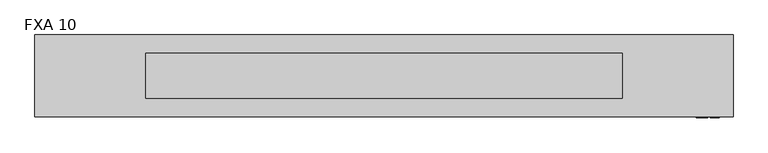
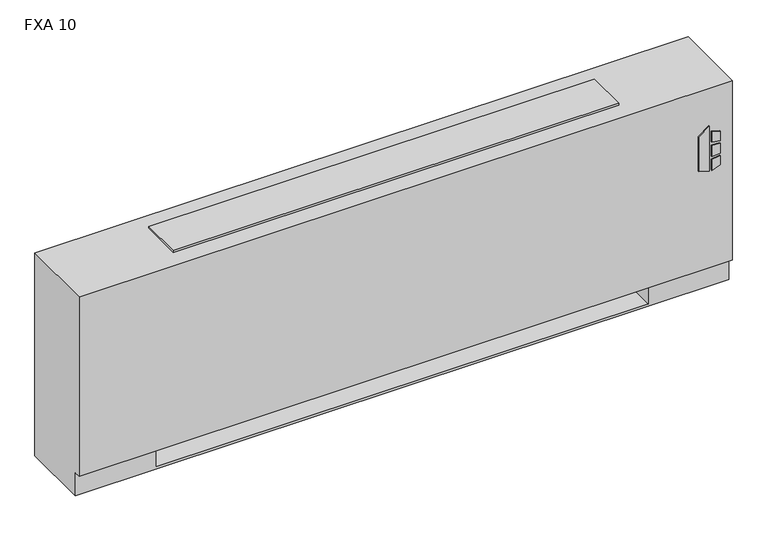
"""IFC4 building model written with IfcOpenShell, lengths in millimetres: proxy geometry, Vertical_Fan_Coil_Unit_-_FXA_-_IEC_-_4-Pipe_TS-FR_RH_2022 : FXA 10."""

from ifc_helpers import new_model, si_unit, point, frame, frame_2d, origin, place, context, project, spatial, polyline, circle_curve, trimmed, segment, composite_curve, outline, extrude, source, transform, mapped, element, save
from ifc_brep_helpers import plane_surface, revolved_surface, advanced_brep


def fxa_10_67cc4ca5(model_context):
    return source(origin(), model_context, "Body", "SolidModel", [
        extrude(outline(polyline([(391.6086829, 1027.1868862), (381.6606126, 1059.3602728), (523.831537, 1059.3602728), (500.8095309, 1027.1868862), (391.6086829, 1027.1868862)])), frame((0.0, 12.7, 0.0), z_axis=(0.0, 1.0, 0.0), x_axis=(0.0, 0.0, 1.0)), (0.0, 0.0, 1.0), 3.175),
        extrude(outline(polyline([(470.6079683, 1066.1186058), (467.4055757, 1092.2), (496.6344168, 1092.2), (504.6988318, 1066.1186058), (470.6079683, 1066.1186058)])), frame((0.0, 12.7, 0.0), z_axis=(0.0, 1.0, 0.0), x_axis=(0.0, 0.0, 1.0)), (0.0, 0.0, 1.0), 3.175),
        extrude(outline(polyline([(418.7444414, 1092.2), (415.0789404, 1066.1186058), (381.6606126, 1066.1186058), (390.2948498, 1092.2), (418.7444414, 1092.2)])), frame((0.0, 12.7, 0.0), z_axis=(0.0, 1.0, 0.0), x_axis=(0.0, 0.0, 1.0)), (0.0, 0.0, 1.0), 3.175),
        extrude(outline(polyline([(458.0596028, 1092.2), (460.3414292, 1066.1186058), (424.4038806, 1066.1186058), (427.1451456, 1092.2), (458.0596028, 1092.2)])), frame((0.0, 12.7, 0.0), z_axis=(0.0, 1.0, 0.0), x_axis=(0.0, 0.0, 1.0)), (0.0, 0.0, 1.0), 3.175),
        extrude(outline(polyline([(-704.85, 81.534), (-704.85, 223.266), (-584.2, 223.266), (-584.2, 81.534), (-704.85, 81.534)])), frame((0.0, 0.0, 327.025), z_axis=(0.0, 0.0, 1.0), x_axis=(1.0, 0.0, 0.0)), (0.0, 0.0, 1.0), 260.35),
        extrude(outline(composite_curve([segment(trimmed(circle_curve(frame_2d((952.5, 130.175)), 9.525), [point((942.975, 130.175))], [point((962.025, 130.175))], False, "CARTESIAN"), True, "CONTINUOUS"), segment(trimmed(circle_curve(frame_2d((952.5, 130.175)), 9.525), [point((962.025, 130.175))], [point((942.975, 130.175))], False, "CARTESIAN"), True, "CONTINUOUS")], self_intersect=False)), frame((0.0, 0.0, 101.6), z_axis=(0.0, 0.0, 1.0), x_axis=(1.0, 0.0, 0.0)), (0.0, 0.0, 1.0), 25.4),
        extrude(outline(polyline([(1047.75, 196.85), (1047.75, 63.5), (889.0, 63.5), (889.0, 196.85), (1047.75, 196.85)])), frame((0.0, 0.0, 127.0), z_axis=(0.0, 0.0, 1.0), x_axis=(1.0, 0.0, 0.0)), (0.0, 0.0, 1.0), 50.8),
        extrude(outline(composite_curve([segment(trimmed(circle_curve(frame_2d((109.0168, 460.0194)), 7.9375), [point((109.0168, 467.9569))], [point((109.0168, 452.0819))], False, "CARTESIAN"), True, "CONTINUOUS"), segment(trimmed(circle_curve(frame_2d((109.0168, 460.0194)), 7.9375), [point((109.0168, 452.0819))], [point((109.0168, 467.9569))], False, "CARTESIAN"), True, "CONTINUOUS")], self_intersect=False)), frame((889.0, 0.0, 0.0), z_axis=(1.0, 0.0, 0.0), x_axis=(0.0, 1.0, 0.0)), (0.0, 0.0, 1.0), 50.8),
        extrude(outline(composite_curve([segment(trimmed(circle_curve(frame_2d((172.085, 460.0194)), 7.9375), [point((172.085, 467.9569))], [point((172.085, 452.0819))], False, "CARTESIAN"), True, "CONTINUOUS"), segment(trimmed(circle_curve(frame_2d((172.085, 460.0194)), 7.9375), [point((172.085, 452.0819))], [point((172.085, 467.9569))], False, "CARTESIAN"), True, "CONTINUOUS")], self_intersect=False)), frame((889.0, 0.0, 0.0), z_axis=(1.0, 0.0, 0.0), x_axis=(0.0, 1.0, 0.0)), (0.0, 0.0, 1.0), 50.8),
        extrude(outline(composite_curve([segment(trimmed(circle_curve(frame_2d((130.175, 554.99)), 7.9502), [point((130.175, 562.9402))], [point((130.175, 547.0398))], False, "CARTESIAN"), True, "CONTINUOUS"), segment(trimmed(circle_curve(frame_2d((130.175, 554.99)), 7.9502), [point((130.175, 547.0398))], [point((130.175, 562.9402))], False, "CARTESIAN"), True, "CONTINUOUS")], self_intersect=False)), frame((889.0, 0.0, 0.0), z_axis=(1.0, 0.0, 0.0), x_axis=(0.0, 1.0, 0.0)), (0.0, 0.0, 1.0), 50.8),
        extrude(outline(composite_curve([segment(trimmed(circle_curve(frame_2d((53.975, 416.56)), 7.9502), [point((53.975, 424.5102))], [point((53.975, 408.6098))], False, "CARTESIAN"), True, "CONTINUOUS"), segment(trimmed(circle_curve(frame_2d((53.975, 416.56)), 7.9502), [point((53.975, 408.6098))], [point((53.975, 424.5102))], False, "CARTESIAN"), True, "CONTINUOUS")], self_intersect=False)), frame((889.0, 0.0, 0.0), z_axis=(1.0, 0.0, 0.0), x_axis=(0.0, 1.0, 0.0)), (0.0, 0.0, 1.0), 50.8),
        advanced_brep(
        [(1130.3, 244.475, 641.35), (-825.5, 244.475, 641.35), (-825.5, 15.875, 641.35), (1130.3, 15.875, 641.35), (-825.5, 244.475, 0.0), (1130.3, 244.475, 0.0), (1130.3, 34.925, 0.0), (-825.5, 34.925, 0.0), (889.0, 244.475, 73.025), (1117.6, 244.475, 73.025), (1117.6, 244.475, 628.65), (889.0, 244.475, 628.65), (889.0, 244.475, 414.8650565), (917.575, 244.475, 414.8650565), (917.575, 244.475, 385.2349435), (889.0, 244.475, 385.2349435), (889.0, 244.475, 287.3375), (917.575, 244.475, 287.3375), (917.575, 244.475, 258.7625), (889.0, 244.475, 258.7625), (889.0, 244.475, 141.2875), (917.575, 244.475, 141.2875), (917.575, 244.475, 112.7125), (889.0, 244.475, 112.7125), (-584.2, 244.475, 628.65), (-812.8, 244.475, 628.65), (-812.8, 244.475, 73.025), (-584.2, 244.475, 73.025), (-584.2, 244.475, 112.7125), (-612.775, 244.475, 112.7125), (-612.775, 244.475, 141.2875), (-584.2, 244.475, 141.2875), (-584.2, 244.475, 258.7625), (-612.775, 244.475, 258.7625), (-612.775, 244.475, 287.3375), (-584.2, 244.475, 287.3375), (-584.2, 244.475, 385.2349435), (-612.775, 244.475, 385.2349435), (-612.775, 244.475, 414.8650565), (-584.2, 244.475, 414.8650565), (907.2626, 244.475, 127.0), (896.1374, 244.475, 127.0), (907.2626, 244.475, 400.05), (896.1374, 244.475, 400.05), (907.2626, 244.475, 273.05), (896.1374, 244.475, 273.05), (-591.3374, 244.475, 127.0), (-602.4626, 244.475, 127.0), (-591.3374, 244.475, 273.05), (-602.4626, 244.475, 273.05), (-591.3374, 244.475, 400.05), (-602.4626, 244.475, 400.05), (-825.5, 34.925, 73.025), (-825.5, 15.875, 73.025), (1130.3, 15.875, 73.025), (1130.3, 34.925, 73.025), (-584.2, 34.925, 73.025), (-584.2, 219.075, 73.025), (889.0, 219.075, 73.025), (889.0, 34.925, 73.025), (889.0, 34.925, 6.35), (-584.2, 34.925, 6.35), (889.0, 41.275, 628.65), (1117.6, 41.275, 628.65), (1117.6, 41.275, 73.025), (889.0, 41.275, 73.025), (-584.2, 41.275, 628.65), (-584.2, 41.275, 73.025), (-812.8, 41.275, 73.025), (-812.8, 41.275, 628.65), (889.0, 219.075, 73.025), (889.0, 238.125, 112.7125), (889.0, 238.125, 141.2875), (889.0, 238.125, 258.7625), (889.0, 238.125, 287.3375), (889.0, 238.125, 385.2349435), (889.0, 238.125, 414.8650565), (-584.2, 219.075, 73.025), (-584.2, 238.125, 414.8650565), (-584.2, 238.125, 385.2349435), (-584.2, 238.125, 287.3375), (-584.2, 238.125, 258.7625), (-584.2, 238.125, 141.2875), (-584.2, 238.125, 112.7125), (-584.2, 219.075, 6.35), (889.0, 219.075, 6.35), (917.575, 238.125, 112.7125), (917.575, 238.125, 141.2875), (896.1374, 238.125, 127.0), (907.2626, 238.125, 127.0), (917.575, 238.125, 258.7625), (917.575, 238.125, 287.3375), (896.1374, 238.125, 273.05), (907.2626, 238.125, 273.05), (917.575, 238.125, 385.2349435), (917.575, 238.125, 414.8650565), (896.1374, 238.125, 400.05), (907.2626, 238.125, 400.05), (-612.775, 238.125, 141.2875), (-612.775, 238.125, 112.7125), (-602.4626, 238.125, 127.0), (-591.3374, 238.125, 127.0), (-612.775, 238.125, 287.3375), (-612.775, 238.125, 258.7625), (-602.4626, 238.125, 273.05), (-591.3374, 238.125, 273.05), (-612.775, 238.125, 414.8650565), (-612.775, 238.125, 385.2349435), (-602.4626, 238.125, 400.05), (-591.3374, 238.125, 400.05)],
        [
            (0, 1),
            (1, 2),
            (2, 3),
            (3, 0),
            (4, 5),
            (5, 6),
            (6, 7),
            (7, 4),
            (0, 5),
            (4, 1),
            (8, 9),
            (9, 10),
            (10, 11),
            (11, 12),
            (12, 13),
            (13, 14),
            (14, 15),
            (15, 16),
            (16, 17),
            (17, 18),
            (18, 19),
            (19, 20),
            (20, 21),
            (21, 22),
            (22, 23),
            (23, 8),
            (24, 25),
            (25, 26),
            (26, 27),
            (27, 28),
            (28, 29),
            (29, 30),
            (30, 31),
            (31, 32),
            (32, 33),
            (33, 34),
            (34, 35),
            (35, 36),
            (36, 37),
            (37, 38),
            (38, 39),
            (39, 24),
            (40, 41, circle_curve(frame((901.7, 244.475, 127.0), z_axis=(0.0, -1.0, 0.0), x_axis=(-1.0, 0.0, 0.0)), 5.5626)),
            (41, 40, circle_curve(frame((901.7, 244.475, 127.0), z_axis=(0.0, -1.0, 0.0), x_axis=(-1.0, 0.0, 0.0)), 5.5626)),
            (42, 43, circle_curve(frame((901.7, 244.475, 400.05), z_axis=(0.0, -1.0, 0.0), x_axis=(-1.0, 0.0, 0.0)), 5.5626)),
            (43, 42, circle_curve(frame((901.7, 244.475, 400.05), z_axis=(0.0, -1.0, 0.0), x_axis=(-1.0, 0.0, 0.0)), 5.5626)),
            (44, 45, circle_curve(frame((901.7, 244.475, 273.05), z_axis=(0.0, -1.0, 0.0), x_axis=(-1.0, 0.0, 0.0)), 5.5626)),
            (45, 44, circle_curve(frame((901.7, 244.475, 273.05), z_axis=(0.0, -1.0, 0.0), x_axis=(-1.0, 0.0, 0.0)), 5.5626)),
            (46, 47, circle_curve(frame((-596.9, 244.475, 127.0), z_axis=(0.0, -1.0, 0.0), x_axis=(-1.0, 0.0, 0.0)), 5.5626)),
            (47, 46, circle_curve(frame((-596.9, 244.475, 127.0), z_axis=(0.0, -1.0, 0.0), x_axis=(-1.0, 0.0, 0.0)), 5.5626)),
            (48, 49, circle_curve(frame((-596.9, 244.475, 273.05), z_axis=(0.0, -1.0, 0.0), x_axis=(-1.0, 0.0, 0.0)), 5.5626)),
            (49, 48, circle_curve(frame((-596.9, 244.475, 273.05), z_axis=(0.0, -1.0, 0.0), x_axis=(-1.0, 0.0, 0.0)), 5.5626)),
            (50, 51, circle_curve(frame((-596.9, 244.475, 400.05), z_axis=(0.0, -1.0, 0.0), x_axis=(-1.0, 0.0, 0.0)), 5.5626)),
            (51, 50, circle_curve(frame((-596.9, 244.475, 400.05), z_axis=(0.0, -1.0, 0.0), x_axis=(-1.0, 0.0, 0.0)), 5.5626)),
            (7, 52),
            (52, 53),
            (53, 2),
            (53, 54),
            (54, 3),
            (54, 55),
            (55, 6),
            (52, 56),
            (56, 57),
            (57, 58),
            (58, 59),
            (59, 55),
            (59, 60),
            (60, 61),
            (61, 56),
            (62, 63),
            (63, 64),
            (64, 65),
            (65, 62),
            (66, 67),
            (67, 68),
            (68, 69),
            (69, 66),
            (65, 70),
            (70, 8),
            (23, 71),
            (71, 72),
            (72, 20),
            (19, 73),
            (73, 74),
            (74, 16),
            (15, 75),
            (75, 76),
            (76, 12),
            (11, 62),
            (64, 9),
            (63, 10),
            (69, 25),
            (24, 66),
            (68, 26),
            (67, 77),
            (77, 27),
            (39, 78),
            (78, 79),
            (79, 36),
            (35, 80),
            (80, 81),
            (81, 32),
            (31, 82),
            (82, 83),
            (83, 28),
            (57, 84),
            (84, 85),
            (85, 58),
            (85, 60),
            (84, 61),
            (71, 86),
            (86, 87),
            (87, 72),
            (88, 89, circle_curve(frame((901.7, 238.125, 127.0), z_axis=(0.0, 1.0, 0.0), x_axis=(-1.0, 0.0, 0.0)), 5.5626)),
            (89, 88, circle_curve(frame((901.7, 238.125, 127.0), z_axis=(0.0, 1.0, 0.0), x_axis=(-1.0, 0.0, 0.0)), 5.5626)),
            (73, 90),
            (90, 91),
            (91, 74),
            (92, 93, circle_curve(frame((901.7, 238.125, 273.05), z_axis=(0.0, 1.0, 0.0), x_axis=(-1.0, 0.0, 0.0)), 5.5626)),
            (93, 92, circle_curve(frame((901.7, 238.125, 273.05), z_axis=(0.0, 1.0, 0.0), x_axis=(-1.0, 0.0, 0.0)), 5.5626)),
            (75, 94),
            (94, 95),
            (95, 76),
            (96, 97, circle_curve(frame((901.7, 238.125, 400.05), z_axis=(0.0, 1.0, 0.0), x_axis=(-1.0, 0.0, 0.0)), 5.5626)),
            (97, 96, circle_curve(frame((901.7, 238.125, 400.05), z_axis=(0.0, 1.0, 0.0), x_axis=(-1.0, 0.0, 0.0)), 5.5626)),
            (98, 99),
            (99, 83),
            (82, 98),
            (100, 101, circle_curve(frame((-596.9, 238.125, 127.0), z_axis=(0.0, 1.0, 0.0), x_axis=(-1.0, 0.0, 0.0)), 5.5626)),
            (101, 100, circle_curve(frame((-596.9, 238.125, 127.0), z_axis=(0.0, 1.0, 0.0), x_axis=(-1.0, 0.0, 0.0)), 5.5626)),
            (102, 103),
            (103, 81),
            (80, 102),
            (104, 105, circle_curve(frame((-596.9, 238.125, 273.05), z_axis=(0.0, 1.0, 0.0), x_axis=(-1.0, 0.0, 0.0)), 5.5626)),
            (105, 104, circle_curve(frame((-596.9, 238.125, 273.05), z_axis=(0.0, 1.0, 0.0), x_axis=(-1.0, 0.0, 0.0)), 5.5626)),
            (106, 107),
            (107, 79),
            (78, 106),
            (108, 109, circle_curve(frame((-596.9, 238.125, 400.05), z_axis=(0.0, 1.0, 0.0), x_axis=(-1.0, 0.0, 0.0)), 5.5626)),
            (109, 108, circle_curve(frame((-596.9, 238.125, 400.05), z_axis=(0.0, 1.0, 0.0), x_axis=(-1.0, 0.0, 0.0)), 5.5626)),
            (87, 21),
            (86, 22),
            (91, 17),
            (90, 18),
            (95, 13),
            (94, 14),
            (30, 98),
            (99, 29),
            (34, 102),
            (103, 33),
            (38, 106),
            (107, 37),
            (88, 41),
            (40, 89),
            (96, 43),
            (42, 97),
            (92, 45),
            (44, 93),
            (100, 47),
            (46, 101),
            (104, 49),
            (48, 105),
            (108, 51),
            (50, 109),
        ],
        [
            plane_surface(frame((-825.5, 244.475, 641.35), z_axis=(0.0, 0.0, 1.0), x_axis=(-1.0, 0.0, 0.0))),
            plane_surface(frame((-825.5, 244.475, 0.0), z_axis=(0.0, 0.0, -1.0), x_axis=(1.0, 0.0, 0.0))),
            plane_surface(frame((1130.3, 244.475, 641.35), z_axis=(0.0, 1.0, 0.0), x_axis=(0.0, 0.0, -1.0))),
            plane_surface(frame((-825.5, 244.475, 641.35), z_axis=(-1.0, 0.0, 0.0), x_axis=(0.0, 0.0, -1.0))),
            plane_surface(frame((-825.5, 15.875, 641.35), z_axis=(0.0, -1.0, 0.0), x_axis=(0.0, 0.0, -1.0))),
            plane_surface(frame((1130.3, 15.875, 641.35), z_axis=(1.0, 0.0, 0.0), x_axis=(0.0, 0.0, -1.0))),
            plane_surface(frame((-825.5, 15.875, 73.025), z_axis=(0.0, 0.0, -1.0), x_axis=(1.0, 0.0, 0.0))),
            plane_surface(frame((-825.5, 34.925, 73.025), z_axis=(0.0, -1.0, 0.0), x_axis=(1.0, 0.0, 0.0))),
            plane_surface(frame((889.0, 41.275, 628.65), z_axis=(0.0, 1.0, 0.0), x_axis=(0.0, 0.0, -1.0))),
            plane_surface(frame((889.0, 41.275, 628.65), z_axis=(1.0, 0.0, 0.0), x_axis=(0.0, 1.0, 0.0))),
            plane_surface(frame((889.0, 41.275, 73.025), z_axis=(0.0, 0.0, 1.0), x_axis=(0.0, 1.0, 0.0))),
            plane_surface(frame((1117.6, 41.275, 73.025), z_axis=(-1.0, 0.0, 0.0), x_axis=(0.0, 1.0, 0.0))),
            plane_surface(frame((1117.6, 41.275, 628.65), z_axis=(0.0, 0.0, -1.0), x_axis=(0.0, 1.0, 0.0))),
            plane_surface(frame((-584.2, 41.275, 628.65), z_axis=(0.0, 0.0, -1.0), x_axis=(0.0, 1.0, 0.0))),
            plane_surface(frame((-812.8, 41.275, 628.65), z_axis=(1.0, 0.0, 0.0), x_axis=(0.0, 1.0, 0.0))),
            plane_surface(frame((-812.8, 41.275, 73.025), z_axis=(0.0, 0.0, 1.0), x_axis=(0.0, 1.0, 0.0))),
            plane_surface(frame((-584.2, 41.275, 73.025), z_axis=(-1.0, 0.0, 0.0), x_axis=(0.0, 1.0, 0.0))),
            plane_surface(frame((889.0, 219.075, 73.025), z_axis=(0.0, -1.0, 0.0), x_axis=(0.0, 0.0, -1.0))),
            plane_surface(frame((889.0, 219.075, 73.025), z_axis=(-1.0, 0.0, 0.0), x_axis=(0.0, -1.0, 0.0))),
            plane_surface(frame((889.0, 219.075, 6.35), z_axis=(0.0, 0.0, 1.0), x_axis=(0.0, -1.0, 0.0))),
            plane_surface(frame((-584.2, 219.075, 6.35), z_axis=(1.0, 0.0, 0.0), x_axis=(0.0, -1.0, 0.0))),
            plane_surface(frame((917.575, 238.125, 141.2875), z_axis=(0.0, -1.0, 0.0), x_axis=(-1.0, 0.0, 0.0))),
            plane_surface(frame((889.0, 244.475, 141.2875), z_axis=(0.0, 0.0, 1.0), x_axis=(0.0, -1.0, 0.0))),
            plane_surface(frame((917.575, 244.475, 141.2875), z_axis=(1.0, 0.0, 0.0), x_axis=(0.0, -1.0, 0.0))),
            plane_surface(frame((917.575, 244.475, 112.7125), z_axis=(0.0, 0.0, -1.0), x_axis=(0.0, -1.0, 0.0))),
            plane_surface(frame((889.0, 244.475, 287.3375), z_axis=(0.0, 0.0, 1.0), x_axis=(0.0, -1.0, 0.0))),
            plane_surface(frame((917.575, 244.475, 287.3375), z_axis=(1.0, 0.0, 0.0), x_axis=(0.0, -1.0, 0.0))),
            plane_surface(frame((917.575, 244.475, 258.7625), z_axis=(0.0, 0.0, -1.0), x_axis=(0.0, -1.0, 0.0))),
            plane_surface(frame((889.0, 244.475, 414.8650565), z_axis=(0.0, 0.0, 1.0), x_axis=(0.0, -1.0, 0.0))),
            plane_surface(frame((917.575, 244.475, 414.8650565), z_axis=(1.0, 0.0, 0.0), x_axis=(0.0, -1.0, 0.0))),
            plane_surface(frame((917.575, 244.475, 385.2349435), z_axis=(0.0, 0.0, -1.0), x_axis=(0.0, -1.0, 0.0))),
            plane_surface(frame((-612.775, 244.475, 141.2875), z_axis=(0.0, 0.0, 1.0), x_axis=(0.0, -1.0, 0.0))),
            plane_surface(frame((-584.2, 244.475, 112.7125), z_axis=(0.0, 0.0, -1.0), x_axis=(0.0, -1.0, 0.0))),
            plane_surface(frame((-612.775, 244.475, 112.7125), z_axis=(-1.0, 0.0, 0.0), x_axis=(0.0, -1.0, 0.0))),
            plane_surface(frame((-612.775, 244.475, 287.3375), z_axis=(0.0, 0.0, 1.0), x_axis=(0.0, -1.0, 0.0))),
            plane_surface(frame((-584.2, 244.475, 258.7625), z_axis=(0.0, 0.0, -1.0), x_axis=(0.0, -1.0, 0.0))),
            plane_surface(frame((-612.775, 244.475, 258.7625), z_axis=(-1.0, 0.0, 0.0), x_axis=(0.0, -1.0, 0.0))),
            plane_surface(frame((-612.775, 244.475, 414.8650565), z_axis=(0.0, 0.0, 1.0), x_axis=(0.0, -1.0, 0.0))),
            plane_surface(frame((-584.2, 244.475, 385.2349435), z_axis=(0.0, 0.0, -1.0), x_axis=(0.0, -1.0, 0.0))),
            plane_surface(frame((-612.775, 244.475, 385.2349435), z_axis=(-1.0, 0.0, 0.0), x_axis=(0.0, -1.0, 0.0))),
            revolved_surface(polyline([(896.1374000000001, 238.125, 127.0), (896.1374000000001, 244.475, 127.0)]), (901.7, 244.475, 127.0), (0.0, -1.0, 0.0)),
            revolved_surface(polyline([(896.1374000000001, 238.125, 400.05), (896.1374000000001, 244.475, 400.05)]), (901.7, 244.475, 400.05), (0.0, -1.0, 0.0)),
            revolved_surface(polyline([(896.1374000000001, 238.125, 273.05), (896.1374000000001, 244.475, 273.05)]), (901.7, 244.475, 273.05), (0.0, -1.0, 0.0)),
            revolved_surface(polyline([(-602.4626, 238.125, 127.0), (-602.4626, 244.475, 127.0)]), (-596.9, 244.475, 127.0), (0.0, -1.0, 0.0)),
            revolved_surface(polyline([(-602.4626, 238.125, 273.05), (-602.4626, 244.475, 273.05)]), (-596.9, 244.475, 273.05), (0.0, -1.0, 0.0)),
            revolved_surface(polyline([(-602.4626, 238.125, 400.05), (-602.4626, 244.475, 400.05)]), (-596.9, 244.475, 400.05), (0.0, -1.0, 0.0)),
        ],
        [
            (0, [[1, 2, 3, 4]]),
            (1, [[5, 6, 7, 8]]),
            (2, [[-1, 9, -5, 10], [11, 12, 13, 14, 15, 16, 17, 18, 19, 20, 21, 22, 23, 24, 25, 26], [27, 28, 29, 30, 31, 32, 33, 34, 35, 36, 37, 38, 39, 40, 41, 42], [43, 44], [45, 46], [47, 48], [49, 50], [51, 52], [53, 54]]),
            (3, [[-2, -10, -8, 55, 56, 57]]),
            (4, [[-3, -57, 58, 59]]),
            (5, [[-4, -59, 60, 61, -6, -9]]),
            (6, [[-56, 62, 63, 64, 65, 66, -60, -58]]),
            (7, [[-7, -61, -66, 67, 68, 69, -62, -55]]),
            (8, [[70, 71, 72, 73]]),
            (8, [[74, 75, 76, 77]]),
            (9, [[-73, 78, 79, -26, 80, 81, 82, -22, 83, 84, 85, -18, 86, 87, 88, -14, 89]]),
            (10, [[-72, 90, -11, -79, -78]]),
            (11, [[-71, 91, -12, -90]]),
            (12, [[-70, -89, -13, -91]]),
            (13, [[-77, 92, -27, 93]]),
            (14, [[-76, 94, -28, -92]]),
            (15, [[-75, 95, 96, -29, -94]]),
            (16, [[-74, -93, -42, 97, 98, 99, -38, 100, 101, 102, -34, 103, 104, 105, -30, -96, -95]]),
            (17, [[-64, 106, 107, 108]]),
            (18, [[-108, 109, -67, -65]]),
            (19, [[-107, 110, -68, -109]]),
            (20, [[-106, -63, -69, -110]]),
            (21, [[111, 112, 113, -81], [114, 115]]),
            (21, [[116, 117, 118, -84], [119, 120]]),
            (21, [[121, 122, 123, -87], [124, 125]]),
            (21, [[126, 127, -104, 128], [129, 130]]),
            (21, [[131, 132, -101, 133], [134, 135]]),
            (21, [[136, 137, -98, 138], [139, 140]]),
            (22, [[-113, 141, -23, -82]]),
            (23, [[-112, 142, -24, -141]]),
            (24, [[-111, -80, -25, -142]]),
            (25, [[-118, 143, -19, -85]]),
            (26, [[-117, 144, -20, -143]]),
            (27, [[-116, -83, -21, -144]]),
            (28, [[-123, 145, -15, -88]]),
            (29, [[-122, 146, -16, -145]]),
            (30, [[-121, -86, -17, -146]]),
            (31, [[-128, -103, -33, 147]]),
            (32, [[-127, 148, -31, -105]]),
            (33, [[-126, -147, -32, -148]]),
            (34, [[-133, -100, -37, 149]]),
            (35, [[-132, 150, -35, -102]]),
            (36, [[-131, -149, -36, -150]]),
            (37, [[-138, -97, -41, 151]]),
            (38, [[-137, 152, -39, -99]]),
            (39, [[-136, -151, -40, -152]]),
            (40, [[153, -43, 154, -114]]),
            (40, [[-153, -115, -154, -44]]),
            (41, [[155, -45, 156, -124]]),
            (41, [[-155, -125, -156, -46]]),
            (42, [[157, -47, 158, -119]]),
            (42, [[-157, -120, -158, -48]]),
            (43, [[159, -49, 160, -129]]),
            (43, [[-159, -130, -160, -50]]),
            (44, [[161, -51, 162, -134]]),
            (44, [[-161, -135, -162, -52]]),
            (45, [[163, -53, 164, -139]]),
            (45, [[-163, -140, -164, -54]]),
        ],
    ),
        extrude(outline(polyline([(819.15, 193.675), (819.15, 66.675), (-514.35, 66.675), (-514.35, 193.675), (819.15, 193.675)])), frame((0.0, 0.0, 641.35), z_axis=(0.0, 0.0, 1.0), x_axis=(1.0, 0.0, 0.0)), (0.0, 0.0, 1.0), 6.35),
    ])


if __name__ == "__main__":
    model = new_model("IFC4")
    model_context = context("Model", 3, world=origin())
    ifc_project = project(units=[si_unit("LENGTHUNIT", "METRE", prefix="MILLI")], contexts=[model_context])
    site = spatial("IfcSite", under=ifc_project)
    building = spatial("IfcBuilding", under=site)
    placement = place(None, origin())
    fxa_10_shape = fxa_10_67cc4ca5(model_context)
    element("IfcBuildingElementProxy", 1, Name="Vertical_Fan_Coil_Unit_-_FXA_-_IEC_-_4-Pipe_TS-FR_RH_2022 : FXA 10", ObjectType="Vertical_Fan_Coil_Unit_-_FXA_-_IEC_-_4-Pipe_TS-FR_RH_2022 : FXA 10", at=placement, inside=building, context=model_context, shape_type="MappedRepresentation", body=[
        mapped(fxa_10_shape, transform((0.0, 0.0, 0.0), x_axis=(1.0, 0.0, 0.0), y_axis=(0.0, 1.0, 0.0), z_axis=(0.0, 0.0, 1.0))),
    ])
    save(model, "model.ifc")
